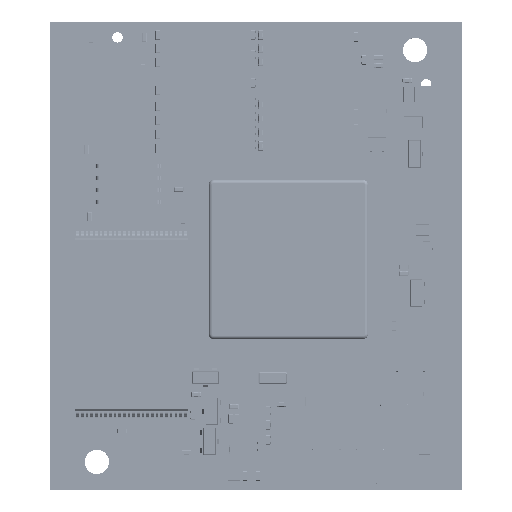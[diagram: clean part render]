
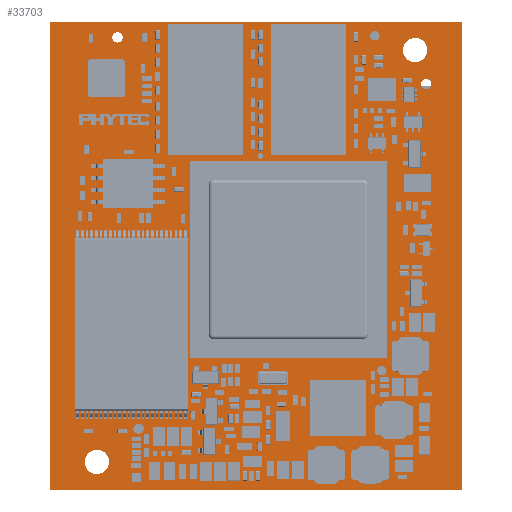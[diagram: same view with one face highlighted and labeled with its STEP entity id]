
A CAD part, top view. The second image highlights one B-rep face of the part: STEP entity #33703.
In plain terms, the highlighted planar face has unit normal (0, 0, 1).
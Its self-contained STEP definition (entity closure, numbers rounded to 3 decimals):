
#33703=ADVANCED_FACE('',(#62162,#62163,#62164,#62165,#62166,#62167),#62168,.T.);
#62162=FACE_OUTER_BOUND('',#96012,.T.);
#62163=FACE_BOUND('',#96013,.T.);
#62164=FACE_BOUND('',#96014,.T.);
#62165=FACE_BOUND('',#96015,.T.);
#62166=FACE_BOUND('',#96016,.T.);
#62167=FACE_BOUND('',#96017,.T.);
#62168=PLANE('',#96018);
#96012=EDGE_LOOP('',(#141029,#141030,#141031,#141032));
#96013=EDGE_LOOP('',(#141033));
#96014=EDGE_LOOP('',(#141034));
#96015=EDGE_LOOP('',(#141035));
#96016=EDGE_LOOP('',(#141036));
#96017=EDGE_LOOP('',(#141037));
#96018=AXIS2_PLACEMENT_3D('',#141038,#141039,#141040);
#141029=ORIENTED_EDGE('',*,*,#154101,.T.);
#141030=ORIENTED_EDGE('',*,*,#154102,.T.);
#141031=ORIENTED_EDGE('',*,*,#154103,.T.);
#141032=ORIENTED_EDGE('',*,*,#154104,.T.);
#141033=ORIENTED_EDGE('',*,*,#154105,.T.);
#141034=ORIENTED_EDGE('',*,*,#154106,.T.);
#141035=ORIENTED_EDGE('',*,*,#154107,.T.);
#141036=ORIENTED_EDGE('',*,*,#154099,.T.);
#141037=ORIENTED_EDGE('',*,*,#154096,.T.);
#141038=CARTESIAN_POINT('',(22.0,25.0,1.481));
#141039=DIRECTION('',(0.,0.0,1.0));
#141040=DIRECTION('',(1.0,-0.0,0.));
#154096=EDGE_CURVE('',#172234,#172234,#172235,.T.);
#154099=EDGE_CURVE('',#172239,#172239,#172240,.T.);
#154101=EDGE_CURVE('',#172242,#172243,#172244,.T.);
#154102=EDGE_CURVE('',#172243,#172245,#172246,.T.);
#154103=EDGE_CURVE('',#172245,#172247,#172248,.T.);
#154104=EDGE_CURVE('',#172247,#172242,#172249,.T.);
#154105=EDGE_CURVE('',#172250,#172250,#172251,.T.);
#154106=EDGE_CURVE('',#172252,#172252,#172253,.T.);
#154107=EDGE_CURVE('',#172254,#172254,#172255,.T.);
#172234=VERTEX_POINT('',#195627);
#172235=CIRCLE('',#195628,1.3);
#172239=VERTEX_POINT('',#195632);
#172240=CIRCLE('',#195633,1.3);
#172242=VERTEX_POINT('',#195635);
#172243=VERTEX_POINT('',#195636);
#172244=LINE('',#195637,#195638);
#172245=VERTEX_POINT('',#195639);
#172246=LINE('',#195640,#195641);
#172247=VERTEX_POINT('',#195642);
#172248=LINE('',#195643,#195644);
#172249=LINE('',#195645,#195646);
#172250=VERTEX_POINT('',#195647);
#172251=CIRCLE('',#195648,0.55);
#172252=VERTEX_POINT('',#195649);
#172253=CIRCLE('',#195650,0.55);
#172254=VERTEX_POINT('',#195651);
#172255=CIRCLE('',#195652,0.55);
#195627=CARTESIAN_POINT('',(37.7,47.0,1.481));
#195628=AXIS2_PLACEMENT_3D('',#210068,#210069,#210070);
#195632=CARTESIAN_POINT('',(3.7,3.0,1.481));
#195633=AXIS2_PLACEMENT_3D('',#210074,#210075,#210076);
#195635=CARTESIAN_POINT('',(0.,0.0,1.481));
#195636=CARTESIAN_POINT('',(44.0,0.0,1.481));
#195637=CARTESIAN_POINT('',(22.0,0.0,1.481));
#195638=VECTOR('',#210077,1.0);
#195639=CARTESIAN_POINT('',(44.0,50.0,1.481));
#195640=CARTESIAN_POINT('',(44.0,25.0,1.481));
#195641=VECTOR('',#210078,1.0);
#195642=CARTESIAN_POINT('',(0.,50.0,1.481));
#195643=CARTESIAN_POINT('',(22.0,50.0,1.481));
#195644=VECTOR('',#210079,1.0);
#195645=CARTESIAN_POINT('',(0.,25.0,1.481));
#195646=VECTOR('',#210080,1.0);
#195647=CARTESIAN_POINT('',(7.2,48.9,1.481));
#195648=AXIS2_PLACEMENT_3D('',#210081,#210082,#210083);
#195649=CARTESIAN_POINT('',(40.2,43.91,1.481));
#195650=AXIS2_PLACEMENT_3D('',#210084,#210085,#210086);
#195651=CARTESIAN_POINT('',(9.452,7.097,1.481));
#195652=AXIS2_PLACEMENT_3D('',#210087,#210088,#210089);
#210068=CARTESIAN_POINT('',(39.0,47.0,1.481));
#210069=DIRECTION('',(0.,0.0,-1.0));
#210070=DIRECTION('',(1.0,0.0,0.));
#210074=CARTESIAN_POINT('',(5.0,3.0,1.481));
#210075=DIRECTION('',(0.,0.0,-1.0));
#210076=DIRECTION('',(1.0,0.0,0.));
#210077=DIRECTION('',(1.0,0.0,0.0));
#210078=DIRECTION('',(0.0,1.0,0.0));
#210079=DIRECTION('',(-1.0,0.0,0.0));
#210080=DIRECTION('',(0.0,-1.0,0.0));
#210081=CARTESIAN_POINT('',(7.2,48.35,1.481));
#210082=DIRECTION('',(0.,0.0,-1.0));
#210083=DIRECTION('',(0.0,1.0,0.0));
#210084=CARTESIAN_POINT('',(40.2,43.36,1.481));
#210085=DIRECTION('',(0.,0.0,-1.0));
#210086=DIRECTION('',(0.0,1.0,0.0));
#210087=CARTESIAN_POINT('',(9.452,6.547,1.481));
#210088=DIRECTION('',(0.,0.0,-1.0));
#210089=DIRECTION('',(0.0,1.0,0.0));
